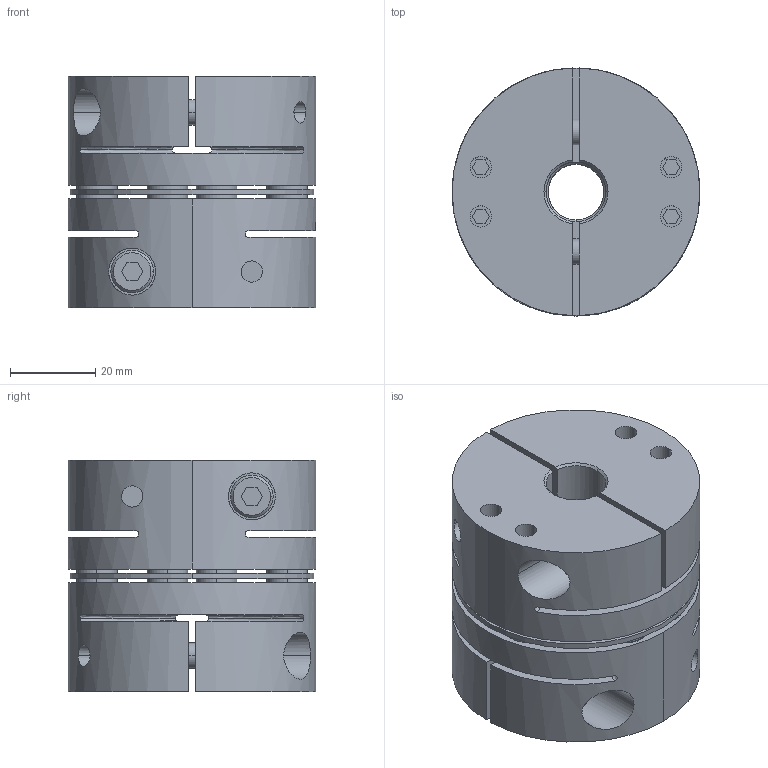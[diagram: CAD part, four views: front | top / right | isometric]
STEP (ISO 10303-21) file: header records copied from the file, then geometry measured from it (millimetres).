
FILE_DESCRIPTION((''),'2;1');
FILE_NAME('TAS-58C-13×14.stp','2022-11-14T21:51:47',(''),(''),'AutoCAD STEP 2000i','AutoCAD 2000i',', , ');
FILE_SCHEMA(('CONFIG_CONTROL_DESIGN'));
Length unit declared in the file: millimetre
Products named in the file (5): TAS-58C-12×12; 忣兜1; TA58C-12-2; CAP-M6×20; TA58C-12
Assembly tree (5 placements, depth 3):
  TAS-58C-12×12
    忣兜1
    TA58C-12-2
      CAP-M6×20
    TA58C-12
      CAP-M6×20
Bounding box: 58 x 58 x 54.25 mm (x, y, z)
Volume: 113209.9 mm3; surface area: 42710.9 mm2
Topology: 1 solids, 1 shells, 360 faces, 897 edges, 611 vertices
Faces by surface type: plane 160, cylinder 148, cone 36, bspline 16
Entity records: 12735 total; most frequent: CARTESIAN_POINT 3821, DIRECTION 1908, ORIENTED_EDGE 1720, EDGE_CURVE 860, AXIS2_PLACEMENT_3D 729, VERTEX_POINT 564, EDGE_LOOP 464, VECTOR 450
